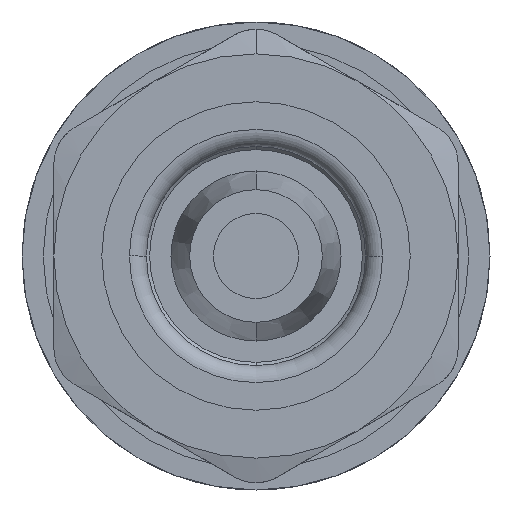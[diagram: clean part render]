
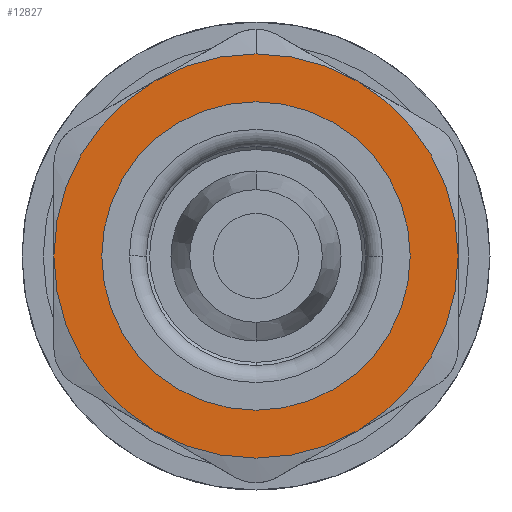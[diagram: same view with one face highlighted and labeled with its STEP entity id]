
A CAD part, front view. The second image highlights one B-rep face of the part: STEP entity #12827.
In plain terms, the highlighted planar face has unit normal (0, -1, 0).
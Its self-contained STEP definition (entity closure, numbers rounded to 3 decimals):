
#447 = EDGE_CURVE ( 'NONE', #6832, #13087, #6914, .T. ) ;
#553 = CARTESIAN_POINT ( 'NONE',  ( 0., -30., 0. ) ) ;
#807 = EDGE_CURVE ( 'NONE', #2012, #12117, #11378, .T. ) ;
#923 = DIRECTION ( 'NONE',  ( 0., -1., 0. ) ) ;
#1120 = DIRECTION ( 'NONE',  ( 0., 0., -1. ) ) ;
#1151 = ORIENTED_EDGE ( 'NONE', *, *, #807, .T. ) ;
#1235 = CIRCLE ( 'NONE', #10625, 9.5 ) ;
#1298 = AXIS2_PLACEMENT_3D ( 'NONE', #8820, #5673, #4646 ) ;
#1689 = EDGE_CURVE ( 'NONE', #3525, #6832, #4732, .T. ) ;
#1697 = CARTESIAN_POINT ( 'NONE',  ( 0., -30., 0. ) ) ;
#1794 = EDGE_CURVE ( 'NONE', #12117, #6666, #10063, .T. ) ;
#2012 = VERTEX_POINT ( 'NONE', #6623 ) ;
#2029 = CIRCLE ( 'NONE', #4848, 7.25 ) ;
#2057 = AXIS2_PLACEMENT_3D ( 'NONE', #4721, #9144, #11235 ) ;
#2837 = CARTESIAN_POINT ( 'NONE',  ( 4.75, -30., -8.227 ) ) ;
#2997 = CIRCLE ( 'NONE', #8362, 7.25 ) ;
#3235 = EDGE_LOOP ( 'NONE', ( #7315, #7164, #5266, #6492, #4311, #7475, #1151 ) ) ;
#3406 = AXIS2_PLACEMENT_3D ( 'NONE', #11113, #8973, #10138 ) ;
#3525 = VERTEX_POINT ( 'NONE', #10911 ) ;
#3566 = DIRECTION ( 'NONE',  ( 0., 0., -1. ) ) ;
#3569 = AXIS2_PLACEMENT_3D ( 'NONE', #13644, #923, #8269 ) ;
#3658 = VERTEX_POINT ( 'NONE', #12807 ) ;
#3883 = FACE_OUTER_BOUND ( 'NONE', #3235, .T. ) ;
#4017 = AXIS2_PLACEMENT_3D ( 'NONE', #7907, #6729, #3566 ) ;
#4311 = ORIENTED_EDGE ( 'NONE', *, *, #447, .T. ) ;
#4646 = DIRECTION ( 'NONE',  ( 0., 0., -1. ) ) ;
#4721 = CARTESIAN_POINT ( 'NONE',  ( 0., -30., 0. ) ) ;
#4732 = CIRCLE ( 'NONE', #1298, 9.5 ) ;
#4827 = DIRECTION ( 'NONE',  ( 0., -1., 0. ) ) ;
#4848 = AXIS2_PLACEMENT_3D ( 'NONE', #553, #4827, #6974 ) ;
#4857 = EDGE_CURVE ( 'NONE', #3658, #3525, #6012, .T. ) ;
#5117 = CARTESIAN_POINT ( 'NONE',  ( 0., -30., 9.5 ) ) ;
#5266 = ORIENTED_EDGE ( 'NONE', *, *, #4857, .T. ) ;
#5274 = EDGE_CURVE ( 'NONE', #6337, #11270, #2997, .T. ) ;
#5456 = DIRECTION ( 'NONE',  ( 0., -1., 0. ) ) ;
#5673 = DIRECTION ( 'NONE',  ( 0., -1., 0. ) ) ;
#6012 = CIRCLE ( 'NONE', #11811, 9.5 ) ;
#6151 = CARTESIAN_POINT ( 'NONE',  ( 0., -30., 0. ) ) ;
#6337 = VERTEX_POINT ( 'NONE', #10623 ) ;
#6492 = ORIENTED_EDGE ( 'NONE', *, *, #1689, .T. ) ;
#6623 = CARTESIAN_POINT ( 'NONE',  ( -9.5, -30., 0. ) ) ;
#6666 = VERTEX_POINT ( 'NONE', #2837 ) ;
#6729 = DIRECTION ( 'NONE',  ( 0., -1., 0. ) ) ;
#6778 = DIRECTION ( 'NONE',  ( 0., 0., -1. ) ) ;
#6832 = VERTEX_POINT ( 'NONE', #5117 ) ;
#6880 = CIRCLE ( 'NONE', #2057, 9.5 ) ;
#6914 = CIRCLE ( 'NONE', #3569, 9.5 ) ;
#6974 = DIRECTION ( 'NONE',  ( 0., 0., -1. ) ) ;
#7126 = EDGE_LOOP ( 'NONE', ( #8554, #13056 ) ) ;
#7164 = ORIENTED_EDGE ( 'NONE', *, *, #7593, .T. ) ;
#7171 = DIRECTION ( 'NONE',  ( 0., 0., -1. ) ) ;
#7295 = DIRECTION ( 'NONE',  ( 0., -1., 0. ) ) ;
#7315 = ORIENTED_EDGE ( 'NONE', *, *, #1794, .T. ) ;
#7475 = ORIENTED_EDGE ( 'NONE', *, *, #12642, .T. ) ;
#7593 = EDGE_CURVE ( 'NONE', #6666, #3658, #1235, .T. ) ;
#7907 = CARTESIAN_POINT ( 'NONE',  ( 0., -30., 0. ) ) ;
#8268 = EDGE_CURVE ( 'NONE', #11270, #6337, #2029, .T. ) ;
#8269 = DIRECTION ( 'NONE',  ( 0., 0., -1. ) ) ;
#8343 = CARTESIAN_POINT ( 'NONE',  ( 0., -30., -8.66 ) ) ;
#8362 = AXIS2_PLACEMENT_3D ( 'NONE', #1697, #10166, #6778 ) ;
#8533 = FACE_BOUND ( 'NONE', #7126, .T. ) ;
#8554 = ORIENTED_EDGE ( 'NONE', *, *, #5274, .F. ) ;
#8820 = CARTESIAN_POINT ( 'NONE',  ( 0., -30., 0. ) ) ;
#8973 = DIRECTION ( 'NONE',  ( 0., -1., 0. ) ) ;
#8986 = CARTESIAN_POINT ( 'NONE',  ( -4.75, -30., 8.227 ) ) ;
#9144 = DIRECTION ( 'NONE',  ( 0., -1., 0. ) ) ;
#9754 = CARTESIAN_POINT ( 'NONE',  ( -4.75, -30., -8.227 ) ) ;
#10063 = CIRCLE ( 'NONE', #3406, 9.5 ) ;
#10138 = DIRECTION ( 'NONE',  ( 0., 0., -1. ) ) ;
#10166 = DIRECTION ( 'NONE',  ( 0., -1., 0. ) ) ;
#10206 = CARTESIAN_POINT ( 'NONE',  ( 0., -30., 7.25 ) ) ;
#10623 = CARTESIAN_POINT ( 'NONE',  ( 0., -30., -7.25 ) ) ;
#10625 = AXIS2_PLACEMENT_3D ( 'NONE', #12753, #5456, #11682 ) ;
#10911 = CARTESIAN_POINT ( 'NONE',  ( 4.75, -30., 8.227 ) ) ;
#11113 = CARTESIAN_POINT ( 'NONE',  ( 0., -30., 0. ) ) ;
#11235 = DIRECTION ( 'NONE',  ( 0., 0., -1. ) ) ;
#11270 = VERTEX_POINT ( 'NONE', #10206 ) ;
#11378 = CIRCLE ( 'NONE', #4017, 9.5 ) ;
#11473 = AXIS2_PLACEMENT_3D ( 'NONE', #8343, #13718, #1120 ) ;
#11682 = DIRECTION ( 'NONE',  ( 0., 0., -1. ) ) ;
#11811 = AXIS2_PLACEMENT_3D ( 'NONE', #6151, #7295, #7171 ) ;
#12117 = VERTEX_POINT ( 'NONE', #9754 ) ;
#12642 = EDGE_CURVE ( 'NONE', #13087, #2012, #6880, .T. ) ;
#12658 = PLANE ( 'NONE',  #11473 ) ;
#12753 = CARTESIAN_POINT ( 'NONE',  ( 0., -30., 0. ) ) ;
#12807 = CARTESIAN_POINT ( 'NONE',  ( 9.5, -30., 0. ) ) ;
#12827 = ADVANCED_FACE ( 'NONE', ( #8533, #3883 ), #12658, .T. ) ;
#13056 = ORIENTED_EDGE ( 'NONE', *, *, #8268, .F. ) ;
#13087 = VERTEX_POINT ( 'NONE', #8986 ) ;
#13644 = CARTESIAN_POINT ( 'NONE',  ( 0., -30., 0. ) ) ;
#13718 = DIRECTION ( 'NONE',  ( 0., -1., 0. ) ) ;
